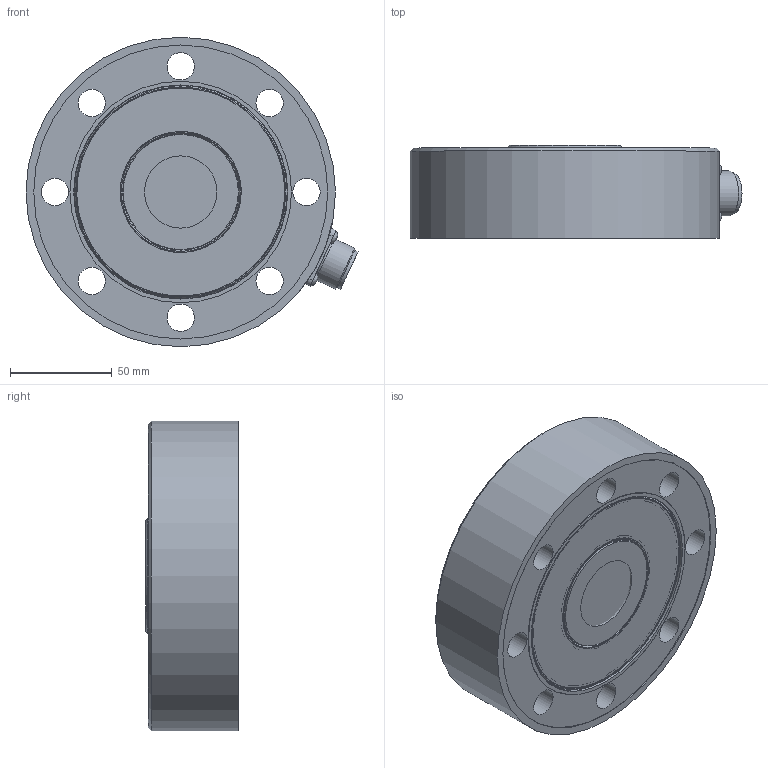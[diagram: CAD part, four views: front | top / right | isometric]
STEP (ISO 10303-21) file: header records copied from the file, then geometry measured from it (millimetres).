
FILE_DESCRIPTION (( 'STEP AP203' ), '1' );
FILE_NAME ('80308 WITHOUT OPTIONAL BASE.STEP', '2017-02-27T21:12:38', ( '' ), ( '' ), 'SwSTEP 2.0', 'SolidWorks 2016', '' );
FILE_SCHEMA (( 'CONFIG_CONTROL_DESIGN' ));
Length unit declared in the file: inch
Products named in the file (1): 80308 WITHOUT OPTIONAL BASE
Bounding box: 163.49 x 45.72 x 152.4 mm (x, y, z)
Volume: 676707.2 mm3; surface area: 100755.3 mm2
Topology: 1 solids, 7 shells, 146 faces, 318 edges, 203 vertices
Faces by surface type: plane 65, cylinder 54, torus 9, cone 8, sphere 6, bspline 4
Full cylindrical faces by diameter (mm): 1.778 x6, 3.505 x4, 3.658 x4, 13.462 x8, 17.653 x1, 20.244 x1, 22.225 x1, 35.56 x1, 38.608 x1, 56.693 x2, 59.563 x2, 59.614 x2, 62.001 x2, 100.127 x2, 102.489 x2, 102.54 x2, 105.41 x2, 109.068 x1, 144.78 x1, 152.4 x1
Entity records: 4179 total; most frequent: CARTESIAN_POINT 1279, DIRECTION 582, ORIENTED_EDGE 440, EDGE_LOOP 272, AXIS2_PLACEMENT_3D 255, EDGE_CURVE 220, FACE_OUTER_BOUND 201, VERTEX_POINT 184
